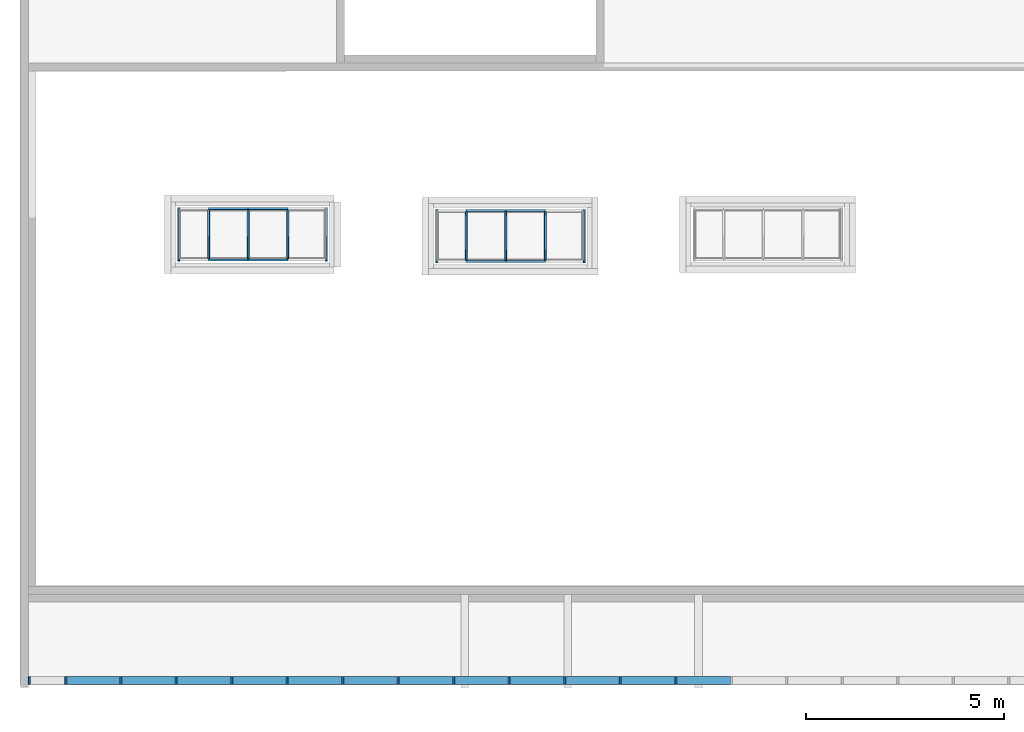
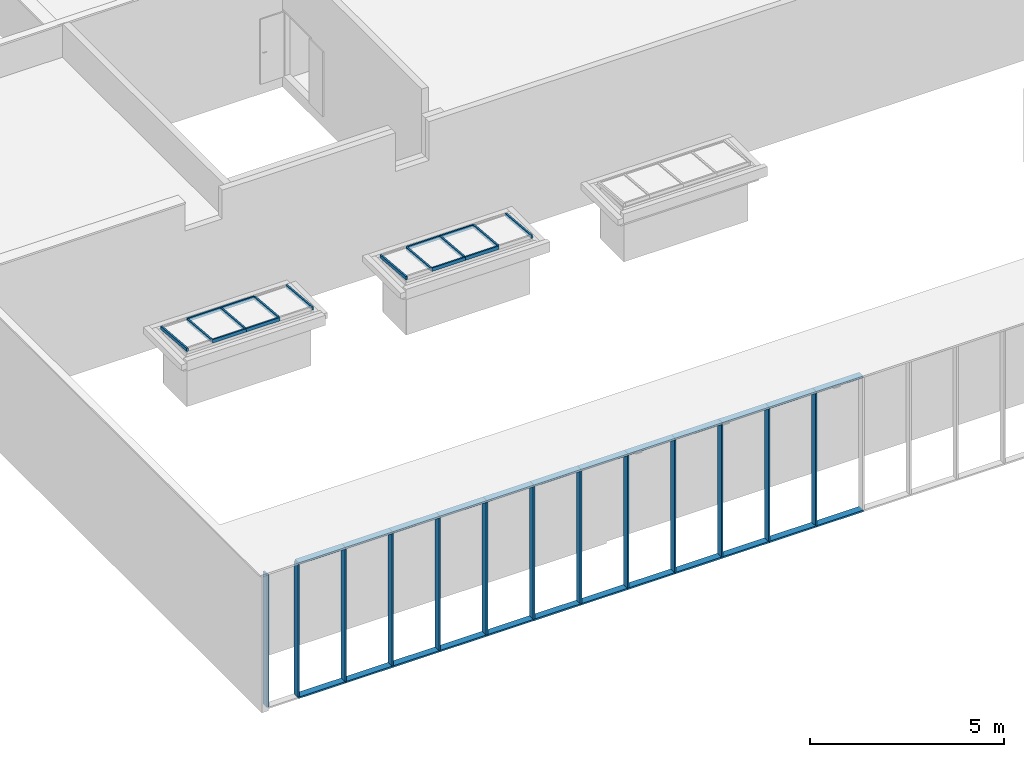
# One storey, part 2 of 106: 55 members, 3 elements without a shape of their own.
"""IFC2X3 building model written with IfcOpenShell, lengths in centimetres."""

from ifc_helpers import new_model, entity, si_unit, converted_unit, derived_unit, direction, frame, origin, origin_2d_with_axis, place, context, subcontext, project, spatial, rectangle, extrude, source, transform, mapped, material, type_object, type_shapes, element, aggregate, save


model = new_model("IFC2X3")

# Units and contexts
model_context = context("Model", 3, precision=0.001, world=origin(), true_north=direction((6.12303176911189e-17, 1.0)))
body_context = subcontext(model_context, "Body", "Model", "MODEL_VIEW")
ifc_project = project(units=[si_unit("LENGTHUNIT", "METRE", prefix="CENTI"), si_unit("AREAUNIT", "SQUARE_METRE"), si_unit("VOLUMEUNIT", "CUBIC_METRE"), converted_unit("PLANEANGLEUNIT", "DEGREE", entity("IfcRatioMeasure", 0.0174532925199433), si_unit("PLANEANGLEUNIT", "RADIAN"), dimensions=[0, 0, 0, 0, 0, 0, 0]), si_unit("MASSUNIT", "GRAM", prefix="KILO"), derived_unit("MASSDENSITYUNIT", [(si_unit("MASSUNIT", "GRAM", prefix="KILO"), 1), (si_unit("LENGTHUNIT", "METRE"), -3)]), si_unit("TIMEUNIT", "SECOND"), si_unit("FREQUENCYUNIT", "HERTZ"), si_unit("THERMODYNAMICTEMPERATUREUNIT", "DEGREE_CELSIUS"), derived_unit("THERMALTRANSMITTANCEUNIT", [(si_unit("MASSUNIT", "GRAM", prefix="KILO"), 1), (si_unit("THERMODYNAMICTEMPERATUREUNIT", "KELVIN"), -1), (si_unit("TIMEUNIT", "SECOND"), -3)]), derived_unit("VOLUMETRICFLOWRATEUNIT", [(si_unit("LENGTHUNIT", "METRE"), 3), (si_unit("TIMEUNIT", "SECOND"), -1)]), si_unit("ELECTRICCURRENTUNIT", "AMPERE"), si_unit("ELECTRICVOLTAGEUNIT", "VOLT"), si_unit("POWERUNIT", "WATT"), si_unit("FORCEUNIT", "NEWTON", prefix="KILO"), si_unit("ILLUMINANCEUNIT", "LUX"), si_unit("LUMINOUSFLUXUNIT", "LUMEN"), si_unit("LUMINOUSINTENSITYUNIT", "CANDELA"), derived_unit("USERDEFINED", [(si_unit("MASSUNIT", "GRAM", prefix="KILO"), -1), (si_unit("LENGTHUNIT", "METRE"), -2), (si_unit("TIMEUNIT", "SECOND"), 3), (si_unit("LUMINOUSFLUXUNIT", "LUMEN"), 1)]), derived_unit("LINEARVELOCITYUNIT", [(si_unit("LENGTHUNIT", "METRE"), 1), (si_unit("TIMEUNIT", "SECOND"), -1)]), si_unit("PRESSUREUNIT", "PASCAL"), derived_unit("USERDEFINED", [(si_unit("LENGTHUNIT", "METRE"), -2), (si_unit("MASSUNIT", "GRAM", prefix="KILO"), 1), (si_unit("TIMEUNIT", "SECOND"), -2)])], contexts=[model_context])

# Site, building, storey
site_placement = place(None, frame((-2781.94577612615, 7442.24238424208, 0.0)))
site = spatial("IfcSite", under=ifc_project, at=site_placement, Name="Default", CompositionType="ELEMENT")
building_placement = place(site_placement, origin())
building = spatial("IfcBuilding", under=site, at=building_placement, CompositionType="ELEMENT")
storey_placement = place(building_placement, frame((0.0, 0.0, 422.0)))
storey = spatial("IfcBuildingStorey", under=building, at=storey_placement, Name="Toiture - Cuisine", CompositionType="ELEMENT", Elevation=421.999999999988)

# Roof, members
curtain_wall_type_1 = type_object("IfcCurtainWallType", Name="Vitres inclinées:Toit en verre 1 m x 2 m", PredefinedType="NOTDEFINED")
roof_1_placement = place(building_placement, origin())
roof_1 = element("IfcRoof", 1, at=roof_1_placement, inside=storey, type_object=curtain_wall_type_1, Name="Vitres inclinées:Toit en verre 1 m x 2 m", ObjectType="Vitres inclinées:Toit en verre 1 m x 2 m", ShapeType="NOTDEFINED")
ifc_material_1 = material(Name="Plastique, blanc opaque")
member_type_1 = type_object("IfcMemberType", Name="100 x 50mm", PredefinedType="MEMBER")
shared_shape_1 = source(origin(), body_context, "Body", "SweptSolid", [
    extrude(rectangle(XDim=10.0, YDim=5.0, at=origin_2d_with_axis()), frame((-2.5, 0.0, -100.0), z_axis=(0.0, 0.0, 1.0), x_axis=(0.0, -1.0, 0.0)), (0.0, 0.0, 1.0), 99.9999999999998),
])
type_shapes(member_type_1, [shared_shape_1])
member_1_placement = place(building_placement, frame((-11209.3505746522, -4705.23544597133, 662.161362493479), z_axis=(1.0, 0.0, 0.0), x_axis=(0.0, -0.996194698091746, 0.0871557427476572)))
member_1 = element("IfcMember", 2, at=member_1_placement, type_object=member_type_1, material=ifc_material_1, Name="Meneau rectangulaire:100 x 50mm", ObjectType="Meneau rectangulaire:100 x 50mm", context=body_context, shape_type="MappedRepresentation", body=[
    mapped(shared_shape_1, transform((0.0, 0.0, 0.0), scale=1.0)),
])
member_2_placement = place(building_placement, frame((-11309.3505746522, -4705.23544597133, 662.161362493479), z_axis=(1.0, 0.0, 0.0), x_axis=(0.0, -0.996194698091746, 0.0871557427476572)))
member_2 = element("IfcMember", 3, at=member_2_placement, type_object=member_type_1, material=ifc_material_1, Name="Meneau rectangulaire:100 x 50mm", ObjectType="Meneau rectangulaire:100 x 50mm", context=body_context, shape_type="MappedRepresentation", body=[
    mapped(shared_shape_1, transform((0.0, 0.0, 0.0), scale=1.0)),
])

roof_2_placement = place(building_placement, origin())
roof_2 = element("IfcRoof", 4, at=roof_2_placement, inside=storey, type_object=curtain_wall_type_1, Name="Vitres inclinées:Toit en verre 1 m x 2 m", ObjectType="Vitres inclinées:Toit en verre 1 m x 2 m", ShapeType="NOTDEFINED")
member_3_placement = place(building_placement, frame((-10559.3505746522, -4709.23544597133, 662.161362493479), z_axis=(1.0, 0.0, 0.0), x_axis=(0.0, -0.996194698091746, 0.0871557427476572)))
member_3 = element("IfcMember", 5, at=member_3_placement, type_object=member_type_1, material=ifc_material_1, Name="Meneau rectangulaire:100 x 50mm", ObjectType="Meneau rectangulaire:100 x 50mm", context=body_context, shape_type="MappedRepresentation", body=[
    mapped(shared_shape_1, transform((0.0, 0.0, 0.0), scale=1.0)),
])
member_4_placement = place(building_placement, frame((-10659.3505746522, -4709.23544597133, 662.161362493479), z_axis=(1.0, 0.0, 0.0), x_axis=(0.0, -0.996194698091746, 0.0871557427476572)))
member_4 = element("IfcMember", 6, at=member_4_placement, type_object=member_type_1, material=ifc_material_1, Name="Meneau rectangulaire:100 x 50mm", ObjectType="Meneau rectangulaire:100 x 50mm", context=body_context, shape_type="MappedRepresentation", body=[
    mapped(shared_shape_1, transform((0.0, 0.0, 0.0), scale=1.0)),
])

# Member
member_type_2 = type_object("IfcMemberType", Name="100 x 50mm", PredefinedType="MEMBER")
shared_shape_2 = source(origin(), body_context, "Body", "SweptSolid", [
    extrude(rectangle(XDim=10.0, YDim=5.0, at=origin_2d_with_axis()), frame((-2.5, 0.0, -100.0), z_axis=(0.0, 0.0, 1.0), x_axis=(0.0, -1.0, 0.0)), (0.0, 0.0, 1.0), 99.9999999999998),
])
type_shapes(member_type_2, [shared_shape_2])
member_5_placement = place(building_placement, frame((-11309.3505746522, -4571.25027342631, 650.439178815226), z_axis=(-1.0, 0.0, 0.0), x_axis=(0.0, 0.996194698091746, -0.0871557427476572)))
member_5 = element("IfcMember", 7, at=member_5_placement, type_object=member_type_2, material=ifc_material_1, Name="Meneau rectangulaire:100 x 50mm", ObjectType="Meneau rectangulaire:100 x 50mm", context=body_context, shape_type="MappedRepresentation", body=[
    mapped(shared_shape_2, transform((0.0, 0.0, 0.0), scale=1.0)),
])

member_6_placement = place(building_placement, frame((-11409.3505746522, -4571.25027342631, 650.439178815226), z_axis=(-1.0, 0.0, 0.0), x_axis=(0.0, 0.996194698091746, -0.0871557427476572)))
member_6 = element("IfcMember", 8, at=member_6_placement, type_object=member_type_2, material=ifc_material_1, Name="Meneau rectangulaire:100 x 50mm", ObjectType="Meneau rectangulaire:100 x 50mm", context=body_context, shape_type="MappedRepresentation", body=[
    mapped(shared_shape_2, transform((0.0, 0.0, 0.0), scale=1.0)),
])

member_7_placement = place(building_placement, frame((-10659.3505746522, -4575.25027342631, 650.439178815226), z_axis=(-1.0, 0.0, 0.0), x_axis=(0.0, 0.996194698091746, -0.0871557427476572)))
member_7 = element("IfcMember", 9, at=member_7_placement, type_object=member_type_2, material=ifc_material_1, Name="Meneau rectangulaire:100 x 50mm", ObjectType="Meneau rectangulaire:100 x 50mm", context=body_context, shape_type="MappedRepresentation", body=[
    mapped(shared_shape_2, transform((0.0, 0.0, 0.0), scale=1.0)),
])

member_8_placement = place(building_placement, frame((-10759.3505746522, -4575.25027342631, 650.439178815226), z_axis=(-1.0, 0.0, 0.0), x_axis=(0.0, 0.996194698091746, -0.0871557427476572)))
member_8 = element("IfcMember", 10, at=member_8_placement, type_object=member_type_2, material=ifc_material_1, Name="Meneau rectangulaire:100 x 50mm", ObjectType="Meneau rectangulaire:100 x 50mm", context=body_context, shape_type="MappedRepresentation", body=[
    mapped(shared_shape_2, transform((0.0, 0.0, 0.0), scale=1.0)),
])

# Curtain wall, members
curtain_wall_type_2 = type_object("IfcCurtainWallType", Name="Mur-rideau:Epines - 200x50mm", PredefinedType="NOTDEFINED")
curtain_wall_placement = place(building_placement, origin())
curtain_wall = element("IfcCurtainWall", 11, at=curtain_wall_placement, inside=storey, type_object=curtain_wall_type_2, Name="Mur-rideau:Epines - 200x50mm", ObjectType="Mur-rideau:Epines - 200x50mm")
ifc_material_2 = material(Name="Aluminium")
member_type_3 = type_object("IfcMemberType", Name="200x50 mm", PredefinedType="MEMBER")
shared_shape_3 = source(origin(), body_context, "Body", "SweptSolid", [
    extrude(rectangle(XDim=20.0, YDim=5.0, at=origin_2d_with_axis()), frame((-2.5, 0.0, -140.0), z_axis=(0.0, 0.0, 1.0), x_axis=(0.0, -1.0, 0.0)), (0.0, 0.0, 1.0), 140.000000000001),
])
type_shapes(member_type_3, [shared_shape_3])
member_9_placement = place(building_placement, frame((-10230.4873808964, -5764.00173441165, 740.0), z_axis=(-1.0, 0.0, 0.0), x_axis=(0.0, 0.0, 1.0)))
member_9 = element("IfcMember", 12, at=member_9_placement, type_object=member_type_3, material=ifc_material_2, Name="Meneau rectangulaire:200x50 mm", ObjectType="Meneau rectangulaire:200x50 mm", context=body_context, shape_type="MappedRepresentation", body=[
    mapped(shared_shape_3, transform((0.0, 0.0, 0.0), scale=1.0)),
])
member_10_placement = place(building_placement, frame((-10370.4873808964, -5764.00173441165, 740.0), z_axis=(-1.0, 0.0, 0.0), x_axis=(0.0, 0.0, 1.0)))
member_10 = element("IfcMember", 13, at=member_10_placement, type_object=member_type_3, material=ifc_material_2, Name="Meneau rectangulaire:200x50 mm", ObjectType="Meneau rectangulaire:200x50 mm", context=body_context, shape_type="MappedRepresentation", body=[
    mapped(shared_shape_3, transform((0.0, 0.0, 0.0), scale=1.0)),
])
member_11_placement = place(building_placement, frame((-10790.4873808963, -5764.00173441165, 740.0), z_axis=(-1.0, 0.0, 0.0), x_axis=(0.0, 0.0, 1.0)))
member_11 = element("IfcMember", 14, at=member_11_placement, type_object=member_type_3, material=ifc_material_2, Name="Meneau rectangulaire:200x50 mm", ObjectType="Meneau rectangulaire:200x50 mm", context=body_context, shape_type="MappedRepresentation", body=[
    mapped(shared_shape_3, transform((0.0, 0.0, 0.0), scale=1.0)),
])
member_12_placement = place(building_placement, frame((-10930.4873808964, -5764.00173441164, 740.0), z_axis=(-1.0, 0.0, 0.0), x_axis=(0.0, 0.0, 1.0)))
member_12 = element("IfcMember", 15, at=member_12_placement, type_object=member_type_3, material=ifc_material_2, Name="Meneau rectangulaire:200x50 mm", ObjectType="Meneau rectangulaire:200x50 mm", context=body_context, shape_type="MappedRepresentation", body=[
    mapped(shared_shape_3, transform((0.0, 0.0, 0.0), scale=1.0)),
])
member_13_placement = place(building_placement, frame((-11070.4873808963, -5764.00173441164, 740.0), z_axis=(-1.0, 0.0, 0.0), x_axis=(0.0, 0.0, 1.0)))
member_13 = element("IfcMember", 16, at=member_13_placement, type_object=member_type_3, material=ifc_material_2, Name="Meneau rectangulaire:200x50 mm", ObjectType="Meneau rectangulaire:200x50 mm", context=body_context, shape_type="MappedRepresentation", body=[
    mapped(shared_shape_3, transform((0.0, 0.0, 0.0), scale=1.0)),
])
member_14_placement = place(building_placement, frame((-11210.4873808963, -5764.00173441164, 740.0), z_axis=(-1.0, 0.0, 0.0), x_axis=(0.0, 0.0, 1.0)))
member_14 = element("IfcMember", 17, at=member_14_placement, type_object=member_type_3, material=ifc_material_2, Name="Meneau rectangulaire:200x50 mm", ObjectType="Meneau rectangulaire:200x50 mm", context=body_context, shape_type="MappedRepresentation", body=[
    mapped(shared_shape_3, transform((0.0, 0.0, 0.0), scale=1.0)),
])
member_15_placement = place(building_placement, frame((-11350.4873808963, -5764.00173441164, 740.0), z_axis=(-1.0, 0.0, 0.0), x_axis=(0.0, 0.0, 1.0)))
member_15 = element("IfcMember", 18, at=member_15_placement, type_object=member_type_3, material=ifc_material_2, Name="Meneau rectangulaire:200x50 mm", ObjectType="Meneau rectangulaire:200x50 mm", context=body_context, shape_type="MappedRepresentation", body=[
    mapped(shared_shape_3, transform((0.0, 0.0, 0.0), scale=1.0)),
])
member_16_placement = place(building_placement, frame((-11490.4873808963, -5764.00173441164, 740.0), z_axis=(-1.0, 0.0, 0.0), x_axis=(0.0, 0.0, 1.0)))
member_16 = element("IfcMember", 19, at=member_16_placement, type_object=member_type_3, material=ifc_material_2, Name="Meneau rectangulaire:200x50 mm", ObjectType="Meneau rectangulaire:200x50 mm", context=body_context, shape_type="MappedRepresentation", body=[
    mapped(shared_shape_3, transform((0.0, 0.0, 0.0), scale=1.0)),
])
member_17_placement = place(building_placement, frame((-10650.4873808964, -5764.00173441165, 740.0), z_axis=(-1.0, 0.0, 0.0), x_axis=(0.0, 0.0, 1.0)))
member_17 = element("IfcMember", 20, at=member_17_placement, type_object=member_type_3, material=ifc_material_2, Name="Meneau rectangulaire:200x50 mm", ObjectType="Meneau rectangulaire:200x50 mm", context=body_context, shape_type="MappedRepresentation", body=[
    mapped(shared_shape_3, transform((0.0, 0.0, 0.0), scale=1.0)),
])
member_18_placement = place(building_placement, frame((-10510.4873808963, -5764.00173441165, 740.0), z_axis=(-1.0, 0.0, 0.0), x_axis=(0.0, 0.0, 1.0)))
member_18 = element("IfcMember", 21, at=member_18_placement, type_object=member_type_3, material=ifc_material_2, Name="Meneau rectangulaire:200x50 mm", ObjectType="Meneau rectangulaire:200x50 mm", context=body_context, shape_type="MappedRepresentation", body=[
    mapped(shared_shape_3, transform((0.0, 0.0, 0.0), scale=1.0)),
])
member_19_placement = place(building_placement, frame((-11630.4873808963, -5764.00173441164, 740.0), z_axis=(-1.0, 0.0, 0.0), x_axis=(0.0, 0.0, 1.0)))
member_19 = element("IfcMember", 22, at=member_19_placement, type_object=member_type_3, material=ifc_material_2, Name="Meneau rectangulaire:200x50 mm", ObjectType="Meneau rectangulaire:200x50 mm", context=body_context, shape_type="MappedRepresentation", body=[
    mapped(shared_shape_3, transform((0.0, 0.0, 0.0), scale=1.0)),
])
member_20_placement = place(building_placement, frame((-11770.4873808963, -5764.00173441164, 740.0), z_axis=(-1.0, 0.0, 0.0), x_axis=(0.0, 0.0, 1.0)))
member_20 = element("IfcMember", 23, at=member_20_placement, type_object=member_type_3, material=ifc_material_2, Name="Meneau rectangulaire:200x50 mm", ObjectType="Meneau rectangulaire:200x50 mm", context=body_context, shape_type="MappedRepresentation", body=[
    mapped(shared_shape_3, transform((0.0, 0.0, 0.0), scale=1.0)),
])
member_type_4 = type_object("IfcMemberType", Name="200x50 mm", PredefinedType="MEMBER")
shared_shape_4 = source(origin(), body_context, "Body", "SweptSolid", [
    extrude(rectangle(XDim=20.0, YDim=5.0, at=origin_2d_with_axis()), frame((-2.5, 0.0, -140.0), z_axis=(0.0, 0.0, 1.0), x_axis=(0.0, -1.0, 0.0)), (0.0, 0.0, 1.0), 139.999999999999),
])
type_shapes(member_type_4, [shared_shape_4])
member_21_placement = place(building_placement, frame((-10090.4873808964, -5764.00173441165, 313.0), z_axis=(1.0, 0.0, 0.0), x_axis=(0.0, 0.0, -1.0)))
member_21 = element("IfcMember", 24, at=member_21_placement, type_object=member_type_4, material=ifc_material_2, Name="Meneau rectangulaire:200x50 mm", ObjectType="Meneau rectangulaire:200x50 mm", context=body_context, shape_type="MappedRepresentation", body=[
    mapped(shared_shape_4, transform((0.0, 0.0, 0.0), scale=1.0)),
])
member_22_placement = place(building_placement, frame((-10230.4873808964, -5764.00173441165, 313.0), z_axis=(1.0, 0.0, 0.0), x_axis=(0.0, 0.0, -1.0)))
member_22 = element("IfcMember", 25, at=member_22_placement, type_object=member_type_4, material=ifc_material_2, Name="Meneau rectangulaire:200x50 mm", ObjectType="Meneau rectangulaire:200x50 mm", context=body_context, shape_type="MappedRepresentation", body=[
    mapped(shared_shape_4, transform((0.0, 0.0, 0.0), scale=1.0)),
])
member_23_placement = place(building_placement, frame((-10370.4873808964, -5764.00173441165, 313.0), z_axis=(1.0, 0.0, 0.0), x_axis=(0.0, 0.0, -1.0)))
member_23 = element("IfcMember", 26, at=member_23_placement, type_object=member_type_4, material=ifc_material_2, Name="Meneau rectangulaire:200x50 mm", ObjectType="Meneau rectangulaire:200x50 mm", context=body_context, shape_type="MappedRepresentation", body=[
    mapped(shared_shape_4, transform((0.0, 0.0, 0.0), scale=1.0)),
])
member_24_placement = place(building_placement, frame((-10790.4873808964, -5764.00173441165, 313.0), z_axis=(1.0, 0.0, 0.0), x_axis=(0.0, 0.0, -1.0)))
member_24 = element("IfcMember", 27, at=member_24_placement, type_object=member_type_4, material=ifc_material_2, Name="Meneau rectangulaire:200x50 mm", ObjectType="Meneau rectangulaire:200x50 mm", context=body_context, shape_type="MappedRepresentation", body=[
    mapped(shared_shape_4, transform((0.0, 0.0, 0.0), scale=1.0)),
])
member_25_placement = place(building_placement, frame((-10930.4873808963, -5764.00173441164, 313.0), z_axis=(1.0, 0.0, 0.0), x_axis=(0.0, 0.0, -1.0)))
member_25 = element("IfcMember", 28, at=member_25_placement, type_object=member_type_4, material=ifc_material_2, Name="Meneau rectangulaire:200x50 mm", ObjectType="Meneau rectangulaire:200x50 mm", context=body_context, shape_type="MappedRepresentation", body=[
    mapped(shared_shape_4, transform((0.0, 0.0, 0.0), scale=1.0)),
])
member_26_placement = place(building_placement, frame((-11070.4873808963, -5764.00173441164, 313.0), z_axis=(1.0, 0.0, 0.0), x_axis=(0.0, 0.0, -1.0)))
member_26 = element("IfcMember", 29, at=member_26_placement, type_object=member_type_4, material=ifc_material_2, Name="Meneau rectangulaire:200x50 mm", ObjectType="Meneau rectangulaire:200x50 mm", context=body_context, shape_type="MappedRepresentation", body=[
    mapped(shared_shape_4, transform((0.0, 0.0, 0.0), scale=1.0)),
])
member_27_placement = place(building_placement, frame((-11210.4873808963, -5764.00173441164, 313.0), z_axis=(1.0, 0.0, 0.0), x_axis=(0.0, 0.0, -1.0)))
member_27 = element("IfcMember", 30, at=member_27_placement, type_object=member_type_4, material=ifc_material_2, Name="Meneau rectangulaire:200x50 mm", ObjectType="Meneau rectangulaire:200x50 mm", context=body_context, shape_type="MappedRepresentation", body=[
    mapped(shared_shape_4, transform((0.0, 0.0, 0.0), scale=1.0)),
])
member_28_placement = place(building_placement, frame((-11350.4873808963, -5764.00173441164, 313.0), z_axis=(1.0, 0.0, 0.0), x_axis=(0.0, 0.0, -1.0)))
member_28 = element("IfcMember", 31, at=member_28_placement, type_object=member_type_4, material=ifc_material_2, Name="Meneau rectangulaire:200x50 mm", ObjectType="Meneau rectangulaire:200x50 mm", context=body_context, shape_type="MappedRepresentation", body=[
    mapped(shared_shape_4, transform((0.0, 0.0, 0.0), scale=1.0)),
])
member_29_placement = place(building_placement, frame((-11490.4873808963, -5764.00173441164, 313.0), z_axis=(1.0, 0.0, 0.0), x_axis=(0.0, 0.0, -1.0)))
member_29 = element("IfcMember", 32, at=member_29_placement, type_object=member_type_4, material=ifc_material_2, Name="Meneau rectangulaire:200x50 mm", ObjectType="Meneau rectangulaire:200x50 mm", context=body_context, shape_type="MappedRepresentation", body=[
    mapped(shared_shape_4, transform((0.0, 0.0, 0.0), scale=1.0)),
])
member_30_placement = place(building_placement, frame((-10650.4873808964, -5764.00173441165, 313.0), z_axis=(1.0, 0.0, 0.0), x_axis=(0.0, 0.0, -1.0)))
member_30 = element("IfcMember", 33, at=member_30_placement, type_object=member_type_4, material=ifc_material_2, Name="Meneau rectangulaire:200x50 mm", ObjectType="Meneau rectangulaire:200x50 mm", context=body_context, shape_type="MappedRepresentation", body=[
    mapped(shared_shape_4, transform((0.0, 0.0, 0.0), scale=1.0)),
])
member_31_placement = place(building_placement, frame((-10510.4873808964, -5764.00173441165, 313.0), z_axis=(1.0, 0.0, 0.0), x_axis=(0.0, 0.0, -1.0)))
member_31 = element("IfcMember", 34, at=member_31_placement, type_object=member_type_4, material=ifc_material_2, Name="Meneau rectangulaire:200x50 mm", ObjectType="Meneau rectangulaire:200x50 mm", context=body_context, shape_type="MappedRepresentation", body=[
    mapped(shared_shape_4, transform((0.0, 0.0, 0.0), scale=1.0)),
])
member_32_placement = place(building_placement, frame((-11630.4873808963, -5764.00173441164, 313.0), z_axis=(1.0, 0.0, 0.0), x_axis=(0.0, 0.0, -1.0)))
member_32 = element("IfcMember", 35, at=member_32_placement, type_object=member_type_4, material=ifc_material_2, Name="Meneau rectangulaire:200x50 mm", ObjectType="Meneau rectangulaire:200x50 mm", context=body_context, shape_type="MappedRepresentation", body=[
    mapped(shared_shape_4, transform((0.0, 0.0, 0.0), scale=1.0)),
])
member_type_5 = type_object("IfcMemberType", Name="200x50 mm", PredefinedType="MEMBER")
shared_shape_5 = source(origin(), body_context, "Body", "SweptSolid", [
    extrude(rectangle(XDim=20.0, YDim=5.0, at=origin_2d_with_axis()), frame((0.0, 0.0, -417.0), z_axis=(0.0, 0.0, 1.0), x_axis=(0.0, -1.0, 0.0)), (0.0, 0.0, 1.0), 416.999999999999),
])
type_shapes(member_type_5, [shared_shape_5])
member_33_placement = place(building_placement, frame((-11490.4873808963, -5764.00173441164, 318.0), z_axis=(0.0, 0.0, -1.0), x_axis=(-1.0, 0.0, 0.0)))
member_33 = element("IfcMember", 36, at=member_33_placement, type_object=member_type_5, material=ifc_material_2, Name="Meneau rectangulaire:200x50 mm", ObjectType="Meneau rectangulaire:200x50 mm", context=body_context, shape_type="MappedRepresentation", body=[
    mapped(shared_shape_5, transform((0.0, 0.0, 0.0), scale=1.0)),
])
member_34_placement = place(building_placement, frame((-11350.4873808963, -5764.00173441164, 318.0), z_axis=(0.0, 0.0, -1.0), x_axis=(-1.0, 0.0, 0.0)))
member_34 = element("IfcMember", 37, at=member_34_placement, type_object=member_type_5, material=ifc_material_2, Name="Meneau rectangulaire:200x50 mm", ObjectType="Meneau rectangulaire:200x50 mm", context=body_context, shape_type="MappedRepresentation", body=[
    mapped(shared_shape_5, transform((0.0, 0.0, 0.0), scale=1.0)),
])
member_35_placement = place(building_placement, frame((-11210.4873808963, -5764.00173441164, 318.0), z_axis=(0.0, 0.0, -1.0), x_axis=(-1.0, 0.0, 0.0)))
member_35 = element("IfcMember", 38, at=member_35_placement, type_object=member_type_5, material=ifc_material_2, Name="Meneau rectangulaire:200x50 mm", ObjectType="Meneau rectangulaire:200x50 mm", context=body_context, shape_type="MappedRepresentation", body=[
    mapped(shared_shape_5, transform((0.0, 0.0, 0.0), scale=1.0)),
])
member_36_placement = place(building_placement, frame((-11070.4873808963, -5764.00173441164, 318.0), z_axis=(0.0, 0.0, -1.0), x_axis=(-1.0, 0.0, 0.0)))
member_36 = element("IfcMember", 39, at=member_36_placement, type_object=member_type_5, material=ifc_material_2, Name="Meneau rectangulaire:200x50 mm", ObjectType="Meneau rectangulaire:200x50 mm", context=body_context, shape_type="MappedRepresentation", body=[
    mapped(shared_shape_5, transform((0.0, 0.0, 0.0), scale=1.0)),
])
member_37_placement = place(building_placement, frame((-10930.4873808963, -5764.00173441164, 318.0), z_axis=(0.0, 0.0, -1.0), x_axis=(-1.0, 0.0, 0.0)))
member_37 = element("IfcMember", 40, at=member_37_placement, type_object=member_type_5, material=ifc_material_2, Name="Meneau rectangulaire:200x50 mm", ObjectType="Meneau rectangulaire:200x50 mm", context=body_context, shape_type="MappedRepresentation", body=[
    mapped(shared_shape_5, transform((0.0, 0.0, 0.0), scale=1.0)),
])
member_38_placement = place(building_placement, frame((-10790.4873808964, -5764.00173441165, 318.0), z_axis=(0.0, 0.0, -1.0), x_axis=(-1.0, 0.0, 0.0)))
member_38 = element("IfcMember", 41, at=member_38_placement, type_object=member_type_5, material=ifc_material_2, Name="Meneau rectangulaire:200x50 mm", ObjectType="Meneau rectangulaire:200x50 mm", context=body_context, shape_type="MappedRepresentation", body=[
    mapped(shared_shape_5, transform((0.0, 0.0, 0.0), scale=1.0)),
])
member_39_placement = place(building_placement, frame((-10370.4873808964, -5764.00173441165, 318.0), z_axis=(0.0, 0.0, -1.0), x_axis=(-1.0, 0.0, 0.0)))
member_39 = element("IfcMember", 42, at=member_39_placement, type_object=member_type_5, material=ifc_material_2, Name="Meneau rectangulaire:200x50 mm", ObjectType="Meneau rectangulaire:200x50 mm", context=body_context, shape_type="MappedRepresentation", body=[
    mapped(shared_shape_5, transform((0.0, 0.0, 0.0), scale=1.0)),
])
member_40_placement = place(building_placement, frame((-10230.4873808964, -5764.00173441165, 318.0), z_axis=(0.0, 0.0, -1.0), x_axis=(-1.0, 0.0, 0.0)))
member_40 = element("IfcMember", 43, at=member_40_placement, type_object=member_type_5, material=ifc_material_2, Name="Meneau rectangulaire:200x50 mm", ObjectType="Meneau rectangulaire:200x50 mm", context=body_context, shape_type="MappedRepresentation", body=[
    mapped(shared_shape_5, transform((0.0, 0.0, 0.0), scale=1.0)),
])
member_41_placement = place(building_placement, frame((-10510.4873808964, -5764.00173441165, 318.0), z_axis=(0.0, 0.0, -1.0), x_axis=(-1.0, 0.0, 0.0)))
member_41 = element("IfcMember", 44, at=member_41_placement, type_object=member_type_5, material=ifc_material_2, Name="Meneau rectangulaire:200x50 mm", ObjectType="Meneau rectangulaire:200x50 mm", context=body_context, shape_type="MappedRepresentation", body=[
    mapped(shared_shape_5, transform((0.0, 0.0, 0.0), scale=1.0)),
])
member_42_placement = place(building_placement, frame((-10650.4873808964, -5764.00173441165, 318.0), z_axis=(0.0, 0.0, -1.0), x_axis=(-1.0, 0.0, 0.0)))
member_42 = element("IfcMember", 45, at=member_42_placement, type_object=member_type_5, material=ifc_material_2, Name="Meneau rectangulaire:200x50 mm", ObjectType="Meneau rectangulaire:200x50 mm", context=body_context, shape_type="MappedRepresentation", body=[
    mapped(shared_shape_5, transform((0.0, 0.0, 0.0), scale=1.0)),
])
member_43_placement = place(building_placement, frame((-11630.4873808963, -5764.00173441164, 318.0), z_axis=(0.0, 0.0, -1.0), x_axis=(-1.0, 0.0, 0.0)))
member_43 = element("IfcMember", 46, at=member_43_placement, type_object=member_type_5, material=ifc_material_2, Name="Meneau rectangulaire:200x50 mm", ObjectType="Meneau rectangulaire:200x50 mm", context=body_context, shape_type="MappedRepresentation", body=[
    mapped(shared_shape_5, transform((0.0, 0.0, 0.0), scale=1.0)),
])
member_44_placement = place(building_placement, frame((-11770.4873808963, -5764.00173441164, 318.0), z_axis=(0.0, 0.0, -1.0), x_axis=(-1.0, 0.0, 0.0)))
member_44 = element("IfcMember", 47, at=member_44_placement, type_object=member_type_5, material=ifc_material_2, Name="Meneau rectangulaire:200x50 mm", ObjectType="Meneau rectangulaire:200x50 mm", context=body_context, shape_type="MappedRepresentation", body=[
    mapped(shared_shape_5, transform((0.0, 0.0, 0.0), scale=1.0)),
])
member_type_6 = type_object("IfcMemberType", Name="200x50 mm", PredefinedType="MEMBER")
shared_shape_6 = source(origin(), body_context, "Body", "SweptSolid", [
    extrude(rectangle(XDim=20.0, YDim=5.0, at=origin_2d_with_axis()), frame((-2.5, 0.0, -417.0), z_axis=(0.0, 0.0, 1.0), x_axis=(0.0, -1.0, 0.0)), (0.0, 0.0, 1.0), 416.999999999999),
])
type_shapes(member_type_6, [shared_shape_6])
member_45_placement = place(building_placement, frame((-11864.3505746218, -5764.00173441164, 318.0), z_axis=(0.0, 0.0, -1.0), x_axis=(-1.0, 0.0, 0.0)))
member_45 = element("IfcMember", 48, at=member_45_placement, type_object=member_type_6, material=ifc_material_2, Name="Meneau rectangulaire:200x50 mm", ObjectType="Meneau rectangulaire:200x50 mm", context=body_context, shape_type="MappedRepresentation", body=[
    mapped(shared_shape_6, transform((0.0, 0.0, 0.0), scale=1.0)),
])
aggregate(curtain_wall, [member_21, member_9, member_22, member_10, member_23, member_11, member_24, member_12, member_25, member_13, member_26, member_14, member_27, member_15, member_28, member_16, member_29, member_33, member_34, member_35, member_36, member_37, member_38, member_39, member_40, member_45, member_17, member_30, member_18, member_31, member_41, member_42, member_19, member_32, member_20, member_43, member_44])

# Member
member_type_7 = type_object("IfcMemberType", Name="100 x 50mm", PredefinedType="MEMBER")
shared_shape_7 = source(origin(), body_context, "Body", "SweptSolid", [
    extrude(rectangle(XDim=10.0, YDim=5.0, at=origin_2d_with_axis()), frame((-2.5, 0.0, -134.496974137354), z_axis=(0.0, 0.0, 1.0), x_axis=(0.0, -1.0, 0.0)), (0.0, 0.0, 1.0), 134.496974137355),
])
type_shapes(member_type_7, [shared_shape_7])
member_46_placement = place(building_placement, frame((-11109.3505746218, -4571.25027342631, 650.439178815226), z_axis=(0.0, 0.996194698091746, -0.0871557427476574), x_axis=(1.0, 0.0, 0.0)))
member_46 = element("IfcMember", 49, at=member_46_placement, type_object=member_type_7, material=ifc_material_1, Name="Meneau rectangulaire:100 x 50mm", ObjectType="Meneau rectangulaire:100 x 50mm", context=body_context, shape_type="MappedRepresentation", body=[
    mapped(shared_shape_7, transform((0.0, 0.0, 0.0), scale=1.0)),
])

member_47_placement = place(building_placement, frame((-10459.3505746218, -4575.25027342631, 650.439178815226), z_axis=(0.0, 0.996194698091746, -0.0871557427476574), x_axis=(1.0, 0.0, 0.0)))
member_47 = element("IfcMember", 50, at=member_47_placement, type_object=member_type_7, material=ifc_material_1, Name="Meneau rectangulaire:100 x 50mm", ObjectType="Meneau rectangulaire:100 x 50mm", context=body_context, shape_type="MappedRepresentation", body=[
    mapped(shared_shape_7, transform((0.0, 0.0, 0.0), scale=1.0)),
])

member_type_8 = type_object("IfcMemberType", Name="100 x 50mm", PredefinedType="MEMBER")
shared_shape_8 = source(origin(), body_context, "Body", "SweptSolid", [
    extrude(rectangle(XDim=10.0, YDim=5.0, at=origin_2d_with_axis()), frame((-2.5, 0.0, -134.496974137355), z_axis=(0.0, 0.0, 1.0), x_axis=(0.0, -1.0, 0.0)), (0.0, 0.0, 1.0), 134.496974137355),
])
type_shapes(member_type_8, [shared_shape_8])
member_48_placement = place(building_placement, frame((-11486.6505746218, -4705.23544597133, 662.161362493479), z_axis=(0.0, -0.996194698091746, 0.0871557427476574), x_axis=(-1.0, 0.0, 0.0)))
member_48 = element("IfcMember", 51, at=member_48_placement, type_object=member_type_8, material=ifc_material_1, Name="Meneau rectangulaire:100 x 50mm", ObjectType="Meneau rectangulaire:100 x 50mm", context=body_context, shape_type="MappedRepresentation", body=[
    mapped(shared_shape_8, transform((0.0, 0.0, 0.0), scale=1.0)),
])

member_49_placement = place(building_placement, frame((-10836.6505746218, -4709.23544597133, 662.161362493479), z_axis=(0.0, -0.996194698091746, 0.0871557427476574), x_axis=(-1.0, 0.0, 0.0)))
member_49 = element("IfcMember", 52, at=member_49_placement, type_object=member_type_8, material=ifc_material_1, Name="Meneau rectangulaire:100 x 50mm", ObjectType="Meneau rectangulaire:100 x 50mm", context=body_context, shape_type="MappedRepresentation", body=[
    mapped(shared_shape_8, transform((0.0, 0.0, 0.0), scale=1.0)),
])

member_type_9 = type_object("IfcMemberType", Name="100 x 50mm", PredefinedType="MEMBER")
shared_shape_9 = source(origin(), body_context, "Body", "SweptSolid", [
    extrude(rectangle(XDim=10.0, YDim=5.0, at=origin_2d_with_axis()), frame((0.0, 0.0, -124.496974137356), z_axis=(0.0, 0.0, 1.0), x_axis=(0.0, -1.0, 0.0)), (0.0, 0.0, 1.0), 124.496974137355),
])
type_shapes(member_type_9, [shared_shape_9])
member_50_placement = place(building_placement, frame((-11209.3505746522, -4700.25447248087, 661.725583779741), z_axis=(0.0, -0.996194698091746, 0.0871557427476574), x_axis=(-1.0, 0.0, 0.0)))
member_50 = element("IfcMember", 53, at=member_50_placement, type_object=member_type_9, material=ifc_material_1, Name="Meneau rectangulaire:100 x 50mm", ObjectType="Meneau rectangulaire:100 x 50mm", context=body_context, shape_type="MappedRepresentation", body=[
    mapped(shared_shape_9, transform((0.0, 0.0, 0.0), scale=1.0)),
])

member_51_placement = place(building_placement, frame((-11309.3505746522, -4700.25447248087, 661.725583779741), z_axis=(0.0, -0.996194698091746, 0.0871557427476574), x_axis=(-1.0, 0.0, 0.0)))
member_51 = element("IfcMember", 54, at=member_51_placement, type_object=member_type_9, material=ifc_material_1, Name="Meneau rectangulaire:100 x 50mm", ObjectType="Meneau rectangulaire:100 x 50mm", context=body_context, shape_type="MappedRepresentation", body=[
    mapped(shared_shape_9, transform((0.0, 0.0, 0.0), scale=1.0)),
])

member_52_placement = place(building_placement, frame((-11409.3505746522, -4700.25447248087, 661.725583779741), z_axis=(0.0, -0.996194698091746, 0.0871557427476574), x_axis=(-1.0, 0.0, 0.0)))
member_52 = element("IfcMember", 55, at=member_52_placement, type_object=member_type_9, material=ifc_material_1, Name="Meneau rectangulaire:100 x 50mm", ObjectType="Meneau rectangulaire:100 x 50mm", context=body_context, shape_type="MappedRepresentation", body=[
    mapped(shared_shape_9, transform((0.0, 0.0, 0.0), scale=1.0)),
])

aggregate(roof_1, [member_46, member_48, member_5, member_6, member_1, member_2, member_50, member_51, member_52])

member_53_placement = place(building_placement, frame((-10559.3505746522, -4704.25447248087, 661.725583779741), z_axis=(0.0, -0.996194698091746, 0.0871557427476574), x_axis=(-1.0, 0.0, 0.0)))
member_53 = element("IfcMember", 56, at=member_53_placement, type_object=member_type_9, material=ifc_material_1, Name="Meneau rectangulaire:100 x 50mm", ObjectType="Meneau rectangulaire:100 x 50mm", context=body_context, shape_type="MappedRepresentation", body=[
    mapped(shared_shape_9, transform((0.0, 0.0, 0.0), scale=1.0)),
])

member_54_placement = place(building_placement, frame((-10659.3505746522, -4704.25447248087, 661.725583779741), z_axis=(0.0, -0.996194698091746, 0.0871557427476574), x_axis=(-1.0, 0.0, 0.0)))
member_54 = element("IfcMember", 57, at=member_54_placement, type_object=member_type_9, material=ifc_material_1, Name="Meneau rectangulaire:100 x 50mm", ObjectType="Meneau rectangulaire:100 x 50mm", context=body_context, shape_type="MappedRepresentation", body=[
    mapped(shared_shape_9, transform((0.0, 0.0, 0.0), scale=1.0)),
])

member_55_placement = place(building_placement, frame((-10759.3505746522, -4704.25447248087, 661.725583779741), z_axis=(0.0, -0.996194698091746, 0.0871557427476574), x_axis=(-1.0, 0.0, 0.0)))
member_55 = element("IfcMember", 58, at=member_55_placement, type_object=member_type_9, material=ifc_material_1, Name="Meneau rectangulaire:100 x 50mm", ObjectType="Meneau rectangulaire:100 x 50mm", context=body_context, shape_type="MappedRepresentation", body=[
    mapped(shared_shape_9, transform((0.0, 0.0, 0.0), scale=1.0)),
])

aggregate(roof_2, [member_47, member_49, member_7, member_8, member_3, member_4, member_53, member_54, member_55])

save(model, "model.ifc")
